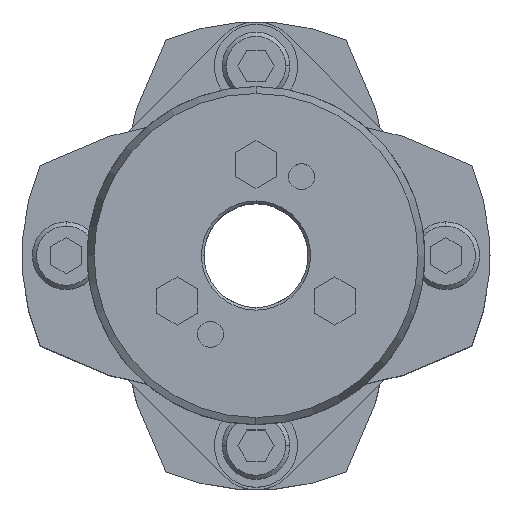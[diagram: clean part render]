
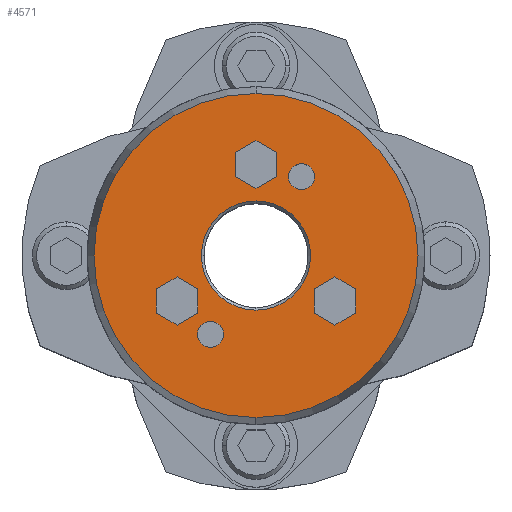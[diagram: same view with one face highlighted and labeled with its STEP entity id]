
A CAD part, top view. The second image highlights one B-rep face of the part: STEP entity #4571.
In plain terms, the highlighted planar face has unit normal (0, 0, 1).
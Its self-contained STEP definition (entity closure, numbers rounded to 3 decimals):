
#2325=CARTESIAN_POINT('',(0.,10.5,52.0));
#2326=VERTEX_POINT('',#2325);
#2342=CARTESIAN_POINT('',(0.,-10.5,52.0));
#2343=VERTEX_POINT('',#2342);
#2350=CARTESIAN_POINT('',(0.,0.,52.0));
#2351=DIRECTION('',(0.0,0.0,1.0));
#2352=DIRECTION('',(0.0,1.0,0.0));
#2353=AXIS2_PLACEMENT_3D('',#2350,#2351,#2352);
#2354=CIRCLE('',#2353,10.5);
#2355=EDGE_CURVE('',#2343,#2326,#2354,.T.);
#2471=CARTESIAN_POINT('',(0.,-31.16,52.0));
#2472=VERTEX_POINT('',#2471);
#2481=CARTESIAN_POINT('',(0.,31.16,52.0));
#2482=VERTEX_POINT('',#2481);
#2483=CARTESIAN_POINT('',(0.,0.,52.0));
#2484=DIRECTION('',(0.0,0.0,-1.0));
#2485=DIRECTION('',(0.0,-1.0,0.0));
#2486=AXIS2_PLACEMENT_3D('',#2483,#2484,#2485);
#2487=CIRCLE('',#2486,31.16);
#2488=EDGE_CURVE('',#2472,#2482,#2487,.T.);
#2805=CARTESIAN_POINT('',(-8.75,-12.655,52.0));
#2806=VERTEX_POINT('',#2805);
#2822=CARTESIAN_POINT('',(-8.75,-17.655,52.0));
#2823=VERTEX_POINT('',#2822);
#2830=CARTESIAN_POINT('',(-8.75,-15.155,52.0));
#2831=DIRECTION('',(0.0,0.0,-1.0));
#2832=DIRECTION('',(0.0,1.0,0.0));
#2833=AXIS2_PLACEMENT_3D('',#2830,#2831,#2832);
#2834=CIRCLE('',#2833,2.5);
#2835=EDGE_CURVE('',#2806,#2823,#2834,.T.);
#2847=CARTESIAN_POINT('',(8.75,17.655,52.0));
#2848=VERTEX_POINT('',#2847);
#2864=CARTESIAN_POINT('',(8.75,12.655,52.0));
#2865=VERTEX_POINT('',#2864);
#2872=CARTESIAN_POINT('',(8.75,15.155,52.0));
#2873=DIRECTION('',(0.0,0.0,-1.0));
#2874=DIRECTION('',(0.0,1.0,0.0));
#2875=AXIS2_PLACEMENT_3D('',#2872,#2873,#2874);
#2876=CIRCLE('',#2875,2.5);
#2877=EDGE_CURVE('',#2848,#2865,#2876,.T.);
#2960=CARTESIAN_POINT('',(8.75,15.155,52.0));
#2961=DIRECTION('',(0.0,0.0,-1.0));
#2962=DIRECTION('',(0.0,1.0,0.0));
#2963=AXIS2_PLACEMENT_3D('',#2960,#2961,#2962);
#2964=CIRCLE('',#2963,2.5);
#2965=EDGE_CURVE('',#2865,#2848,#2964,.T.);
#2994=CARTESIAN_POINT('',(-8.75,-15.155,52.0));
#2995=DIRECTION('',(0.0,0.0,-1.0));
#2996=DIRECTION('',(0.0,1.0,0.0));
#2997=AXIS2_PLACEMENT_3D('',#2994,#2995,#2996);
#2998=CIRCLE('',#2997,2.5);
#2999=EDGE_CURVE('',#2823,#2806,#2998,.T.);
#3037=CARTESIAN_POINT('',(15.155,-4.131,52.0));
#3038=VERTEX_POINT('',#3037);
#3045=CARTESIAN_POINT('',(11.155,-6.441,52.0));
#3046=VERTEX_POINT('',#3045);
#3047=CARTESIAN_POINT('',(11.155,-6.441,52.0));
#3048=DIRECTION('',(0.866,0.5,0.0));
#3049=VECTOR('',#3048,4.619);
#3050=LINE('',#3047,#3049);
#3051=EDGE_CURVE('',#3046,#3038,#3050,.T.);
#3075=CARTESIAN_POINT('',(19.155,-6.441,52.0));
#3076=VERTEX_POINT('',#3075);
#3083=CARTESIAN_POINT('',(15.155,-4.131,52.0));
#3084=DIRECTION('',(0.866,-0.5,0.0));
#3085=VECTOR('',#3084,4.619);
#3086=LINE('',#3083,#3085);
#3087=EDGE_CURVE('',#3038,#3076,#3086,.T.);
#3106=CARTESIAN_POINT('',(19.155,-11.059,52.0));
#3107=VERTEX_POINT('',#3106);
#3114=CARTESIAN_POINT('',(19.155,-6.441,52.0));
#3115=DIRECTION('',(0.0,-1.0,0.0));
#3116=VECTOR('',#3115,4.619);
#3117=LINE('',#3114,#3116);
#3118=EDGE_CURVE('',#3076,#3107,#3117,.T.);
#3137=CARTESIAN_POINT('',(15.155,-13.369,52.0));
#3138=VERTEX_POINT('',#3137);
#3145=CARTESIAN_POINT('',(19.155,-11.059,52.0));
#3146=DIRECTION('',(-0.866,-0.5,0.0));
#3147=VECTOR('',#3146,4.619);
#3148=LINE('',#3145,#3147);
#3149=EDGE_CURVE('',#3107,#3138,#3148,.T.);
#3168=CARTESIAN_POINT('',(11.155,-11.059,52.0));
#3169=VERTEX_POINT('',#3168);
#3176=CARTESIAN_POINT('',(15.155,-13.369,52.0));
#3177=DIRECTION('',(-0.866,0.5,0.0));
#3178=VECTOR('',#3177,4.619);
#3179=LINE('',#3176,#3178);
#3180=EDGE_CURVE('',#3138,#3169,#3179,.T.);
#3198=CARTESIAN_POINT('',(11.155,-11.059,52.0));
#3199=DIRECTION('',(0.0,1.0,0.0));
#3200=VECTOR('',#3199,4.619);
#3201=LINE('',#3198,#3200);
#3202=EDGE_CURVE('',#3169,#3046,#3201,.T.);
#3237=CARTESIAN_POINT('',(0.,22.119,52.0));
#3238=VERTEX_POINT('',#3237);
#3245=CARTESIAN_POINT('',(-4.,19.809,52.0));
#3246=VERTEX_POINT('',#3245);
#3247=CARTESIAN_POINT('',(-4.,19.809,52.0));
#3248=DIRECTION('',(0.866,0.5,0.0));
#3249=VECTOR('',#3248,4.619);
#3250=LINE('',#3247,#3249);
#3251=EDGE_CURVE('',#3246,#3238,#3250,.T.);
#3275=CARTESIAN_POINT('',(4.,19.809,52.0));
#3276=VERTEX_POINT('',#3275);
#3283=CARTESIAN_POINT('',(0.,22.119,52.0));
#3284=DIRECTION('',(0.866,-0.5,0.0));
#3285=VECTOR('',#3284,4.619);
#3286=LINE('',#3283,#3285);
#3287=EDGE_CURVE('',#3238,#3276,#3286,.T.);
#3306=CARTESIAN_POINT('',(4.,15.191,52.0));
#3307=VERTEX_POINT('',#3306);
#3314=CARTESIAN_POINT('',(4.,19.809,52.0));
#3315=DIRECTION('',(0.0,-1.0,0.0));
#3316=VECTOR('',#3315,4.619);
#3317=LINE('',#3314,#3316);
#3318=EDGE_CURVE('',#3276,#3307,#3317,.T.);
#3337=CARTESIAN_POINT('',(0.,12.881,52.0));
#3338=VERTEX_POINT('',#3337);
#3345=CARTESIAN_POINT('',(4.,15.191,52.0));
#3346=DIRECTION('',(-0.866,-0.5,0.0));
#3347=VECTOR('',#3346,4.619);
#3348=LINE('',#3345,#3347);
#3349=EDGE_CURVE('',#3307,#3338,#3348,.T.);
#3368=CARTESIAN_POINT('',(-4.,15.191,52.0));
#3369=VERTEX_POINT('',#3368);
#3376=CARTESIAN_POINT('',(0.,12.881,52.0));
#3377=DIRECTION('',(-0.866,0.5,0.0));
#3378=VECTOR('',#3377,4.619);
#3379=LINE('',#3376,#3378);
#3380=EDGE_CURVE('',#3338,#3369,#3379,.T.);
#3398=CARTESIAN_POINT('',(-4.,15.191,52.0));
#3399=DIRECTION('',(0.0,1.0,0.0));
#3400=VECTOR('',#3399,4.619);
#3401=LINE('',#3398,#3400);
#3402=EDGE_CURVE('',#3369,#3246,#3401,.T.);
#3437=CARTESIAN_POINT('',(-15.155,-4.131,52.0));
#3438=VERTEX_POINT('',#3437);
#3445=CARTESIAN_POINT('',(-19.155,-6.441,52.0));
#3446=VERTEX_POINT('',#3445);
#3447=CARTESIAN_POINT('',(-19.155,-6.441,52.0));
#3448=DIRECTION('',(0.866,0.5,0.0));
#3449=VECTOR('',#3448,4.619);
#3450=LINE('',#3447,#3449);
#3451=EDGE_CURVE('',#3446,#3438,#3450,.T.);
#3475=CARTESIAN_POINT('',(-11.155,-6.441,52.0));
#3476=VERTEX_POINT('',#3475);
#3483=CARTESIAN_POINT('',(-15.155,-4.131,52.0));
#3484=DIRECTION('',(0.866,-0.5,0.0));
#3485=VECTOR('',#3484,4.619);
#3486=LINE('',#3483,#3485);
#3487=EDGE_CURVE('',#3438,#3476,#3486,.T.);
#3506=CARTESIAN_POINT('',(-11.155,-11.059,52.0));
#3507=VERTEX_POINT('',#3506);
#3514=CARTESIAN_POINT('',(-11.155,-6.441,52.0));
#3515=DIRECTION('',(0.0,-1.0,0.0));
#3516=VECTOR('',#3515,4.619);
#3517=LINE('',#3514,#3516);
#3518=EDGE_CURVE('',#3476,#3507,#3517,.T.);
#3537=CARTESIAN_POINT('',(-15.155,-13.369,52.0));
#3538=VERTEX_POINT('',#3537);
#3545=CARTESIAN_POINT('',(-11.155,-11.059,52.0));
#3546=DIRECTION('',(-0.866,-0.5,0.0));
#3547=VECTOR('',#3546,4.619);
#3548=LINE('',#3545,#3547);
#3549=EDGE_CURVE('',#3507,#3538,#3548,.T.);
#3568=CARTESIAN_POINT('',(-19.155,-11.059,52.0));
#3569=VERTEX_POINT('',#3568);
#3576=CARTESIAN_POINT('',(-15.155,-13.369,52.0));
#3577=DIRECTION('',(-0.866,0.5,0.0));
#3578=VECTOR('',#3577,4.619);
#3579=LINE('',#3576,#3578);
#3580=EDGE_CURVE('',#3538,#3569,#3579,.T.);
#3598=CARTESIAN_POINT('',(-19.155,-11.059,52.0));
#3599=DIRECTION('',(0.0,1.0,0.0));
#3600=VECTOR('',#3599,4.619);
#3601=LINE('',#3598,#3600);
#3602=EDGE_CURVE('',#3569,#3446,#3601,.T.);
#4510=CARTESIAN_POINT('',(0.,0.,52.0));
#4511=DIRECTION('',(0.0,0.0,-1.0));
#4512=DIRECTION('',(0.0,-1.0,0.0));
#4513=AXIS2_PLACEMENT_3D('',#4510,#4511,#4512);
#4514=CIRCLE('',#4513,31.16);
#4515=EDGE_CURVE('',#2482,#2472,#4514,.T.);
#4520=CARTESIAN_POINT('',(0.,2.682,52.0));
#4521=DIRECTION('',(0.0,0.0,1.0));
#4522=DIRECTION('',(0.0,1.0,0.0));
#4523=AXIS2_PLACEMENT_3D('',#4520,#4521,#4522);
#4524=PLANE('',#4523);
#4525=ORIENTED_EDGE('',*,*,#4515,.F.);
#4526=ORIENTED_EDGE('',*,*,#2488,.F.);
#4527=EDGE_LOOP('',(#4525,#4526));
#4528=FACE_OUTER_BOUND('',#4527,.T.);
#4529=ORIENTED_EDGE('',*,*,#2877,.T.);
#4530=ORIENTED_EDGE('',*,*,#2965,.T.);
#4531=EDGE_LOOP('',(#4529,#4530));
#4532=FACE_BOUND('',#4531,.T.);
#4533=ORIENTED_EDGE('',*,*,#2835,.T.);
#4534=ORIENTED_EDGE('',*,*,#2999,.T.);
#4535=EDGE_LOOP('',(#4533,#4534));
#4536=FACE_BOUND('',#4535,.T.);
#4537=ORIENTED_EDGE('',*,*,#3051,.T.);
#4538=ORIENTED_EDGE('',*,*,#3087,.T.);
#4539=ORIENTED_EDGE('',*,*,#3118,.T.);
#4540=ORIENTED_EDGE('',*,*,#3149,.T.);
#4541=ORIENTED_EDGE('',*,*,#3180,.T.);
#4542=ORIENTED_EDGE('',*,*,#3202,.T.);
#4543=EDGE_LOOP('',(#4537,#4538,#4539,#4540,#4541,#4542));
#4544=FACE_BOUND('',#4543,.T.);
#4545=ORIENTED_EDGE('',*,*,#3251,.T.);
#4546=ORIENTED_EDGE('',*,*,#3287,.T.);
#4547=ORIENTED_EDGE('',*,*,#3318,.T.);
#4548=ORIENTED_EDGE('',*,*,#3349,.T.);
#4549=ORIENTED_EDGE('',*,*,#3380,.T.);
#4550=ORIENTED_EDGE('',*,*,#3402,.T.);
#4551=EDGE_LOOP('',(#4545,#4546,#4547,#4548,#4549,#4550));
#4552=FACE_BOUND('',#4551,.T.);
#4553=ORIENTED_EDGE('',*,*,#3451,.T.);
#4554=ORIENTED_EDGE('',*,*,#3487,.T.);
#4555=ORIENTED_EDGE('',*,*,#3518,.T.);
#4556=ORIENTED_EDGE('',*,*,#3549,.T.);
#4557=ORIENTED_EDGE('',*,*,#3580,.T.);
#4558=ORIENTED_EDGE('',*,*,#3602,.T.);
#4559=EDGE_LOOP('',(#4553,#4554,#4555,#4556,#4557,#4558));
#4560=FACE_BOUND('',#4559,.T.);
#4561=ORIENTED_EDGE('',*,*,#2355,.F.);
#4562=CARTESIAN_POINT('',(0.,0.,52.0));
#4563=DIRECTION('',(0.0,0.0,1.0));
#4564=DIRECTION('',(0.0,1.0,0.0));
#4565=AXIS2_PLACEMENT_3D('',#4562,#4563,#4564);
#4566=CIRCLE('',#4565,10.5);
#4567=EDGE_CURVE('',#2326,#2343,#4566,.T.);
#4568=ORIENTED_EDGE('',*,*,#4567,.F.);
#4569=EDGE_LOOP('',(#4561,#4568));
#4570=FACE_BOUND('',#4569,.T.);
#4571=ADVANCED_FACE('',(#4528,#4532,#4536,#4544,#4552,#4560,#4570),#4524,.T.);
